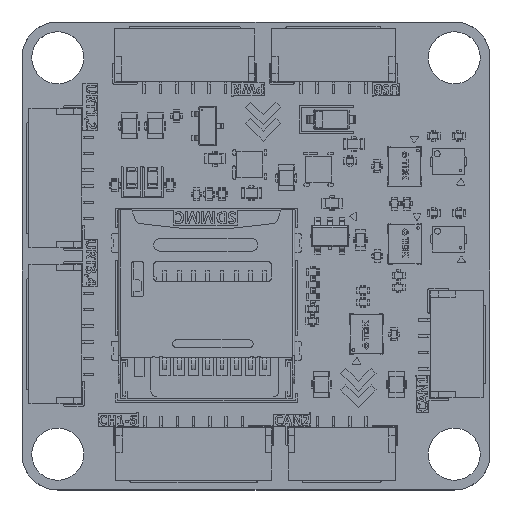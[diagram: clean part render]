
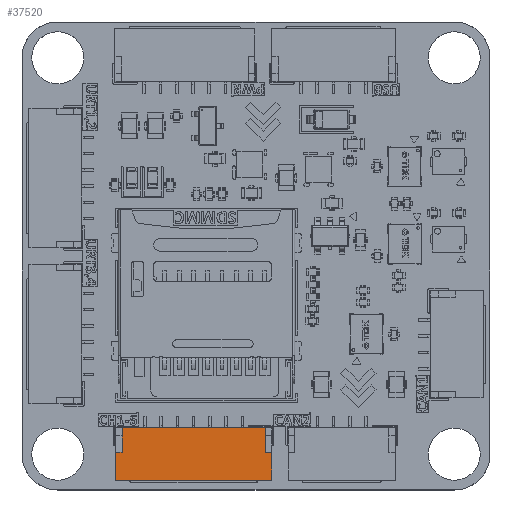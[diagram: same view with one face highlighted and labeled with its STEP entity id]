
A CAD part, top view. The second image highlights one B-rep face of the part: STEP entity #37520.
In plain terms, the highlighted planar face has unit normal (0, 0, 1).
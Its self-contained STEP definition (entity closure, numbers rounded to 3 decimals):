
#36529 = VERTEX_POINT('',#36530);
#36530 = CARTESIAN_POINT('',(-6.,-0.32,4.245));
#36536 = EDGE_CURVE('',#36529,#36537,#36539,.T.);
#36537 = VERTEX_POINT('',#36538);
#36538 = CARTESIAN_POINT('',(-6.,-2.47,4.245));
#36539 = LINE('',#36540,#36541);
#36540 = CARTESIAN_POINT('',(-6.,1.58,4.245));
#36541 = VECTOR('',#36542,1.);
#36542 = DIRECTION('',(0.,-1.,0.));
#36887 = VERTEX_POINT('',#36888);
#36888 = CARTESIAN_POINT('',(6.,-2.47,4.245));
#36894 = EDGE_CURVE('',#36537,#36887,#36895,.T.);
#36895 = LINE('',#36896,#36897);
#36896 = CARTESIAN_POINT('',(-6.,-2.47,4.245));
#36897 = VECTOR('',#36898,1.);
#36898 = DIRECTION('',(1.,0.,0.));
#37520 = ADVANCED_FACE('',(#37521),#37571,.T.);
#37521 = FACE_BOUND('',#37522,.T.);
#37522 = EDGE_LOOP('',(#37523,#37533,#37541,#37547,#37548,#37549,#37557,
    #37565));
#37523 = ORIENTED_EDGE('',*,*,#37524,.F.);
#37524 = EDGE_CURVE('',#37525,#37527,#37529,.T.);
#37525 = VERTEX_POINT('',#37526);
#37526 = CARTESIAN_POINT('',(-5.5,1.58,4.245));
#37527 = VERTEX_POINT('',#37528);
#37528 = CARTESIAN_POINT('',(5.5,1.58,4.245));
#37529 = LINE('',#37530,#37531);
#37530 = CARTESIAN_POINT('',(-6.,1.58,4.245));
#37531 = VECTOR('',#37532,1.);
#37532 = DIRECTION('',(1.,0.,0.));
#37533 = ORIENTED_EDGE('',*,*,#37534,.F.);
#37534 = EDGE_CURVE('',#37535,#37525,#37537,.T.);
#37535 = VERTEX_POINT('',#37536);
#37536 = CARTESIAN_POINT('',(-5.5,-0.32,4.245));
#37537 = LINE('',#37538,#37539);
#37538 = CARTESIAN_POINT('',(-5.5,-0.32,4.245));
#37539 = VECTOR('',#37540,1.);
#37540 = DIRECTION('',(0.,1.,0.));
#37541 = ORIENTED_EDGE('',*,*,#37542,.F.);
#37542 = EDGE_CURVE('',#36529,#37535,#37543,.T.);
#37543 = LINE('',#37544,#37545);
#37544 = CARTESIAN_POINT('',(-6.,-0.32,4.245));
#37545 = VECTOR('',#37546,1.);
#37546 = DIRECTION('',(1.,0.,0.));
#37547 = ORIENTED_EDGE('',*,*,#36536,.T.);
#37548 = ORIENTED_EDGE('',*,*,#36894,.T.);
#37549 = ORIENTED_EDGE('',*,*,#37550,.F.);
#37550 = EDGE_CURVE('',#37551,#36887,#37553,.T.);
#37551 = VERTEX_POINT('',#37552);
#37552 = CARTESIAN_POINT('',(6.,-0.32,4.245));
#37553 = LINE('',#37554,#37555);
#37554 = CARTESIAN_POINT('',(6.,1.58,4.245));
#37555 = VECTOR('',#37556,1.);
#37556 = DIRECTION('',(0.,-1.,0.));
#37557 = ORIENTED_EDGE('',*,*,#37558,.F.);
#37558 = EDGE_CURVE('',#37559,#37551,#37561,.T.);
#37559 = VERTEX_POINT('',#37560);
#37560 = CARTESIAN_POINT('',(5.5,-0.32,4.245));
#37561 = LINE('',#37562,#37563);
#37562 = CARTESIAN_POINT('',(5.5,-0.32,4.245));
#37563 = VECTOR('',#37564,1.);
#37564 = DIRECTION('',(1.,0.,0.));
#37565 = ORIENTED_EDGE('',*,*,#37566,.T.);
#37566 = EDGE_CURVE('',#37559,#37527,#37567,.T.);
#37567 = LINE('',#37568,#37569);
#37568 = CARTESIAN_POINT('',(5.5,-0.32,4.245));
#37569 = VECTOR('',#37570,1.);
#37570 = DIRECTION('',(0.,1.,0.));
#37571 = PLANE('',#37572);
#37572 = AXIS2_PLACEMENT_3D('',#37573,#37574,#37575);
#37573 = CARTESIAN_POINT('',(-6.,1.58,4.245));
#37574 = DIRECTION('',(0.,0.,1.));
#37575 = DIRECTION('',(0.,-1.,0.));
